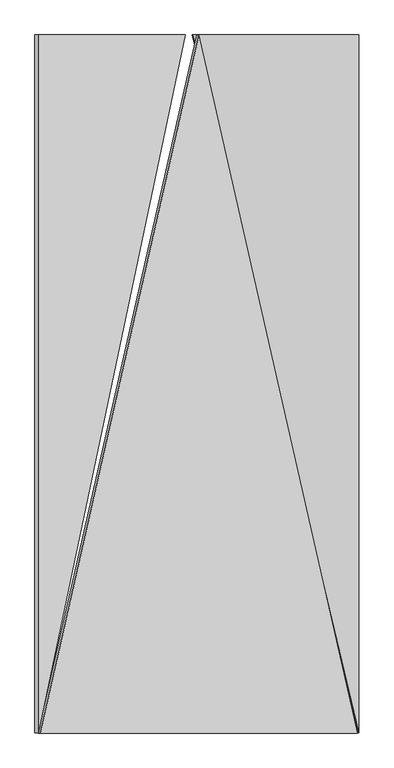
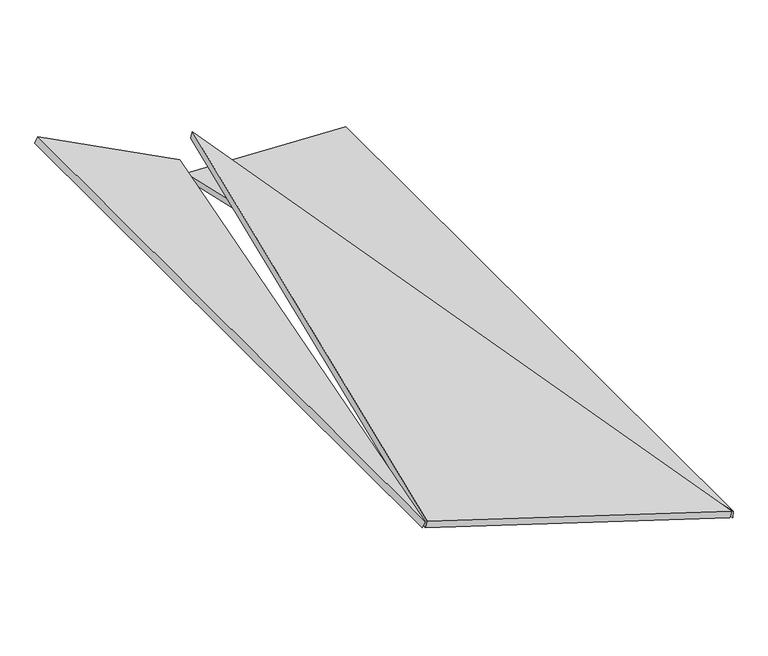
"""IFC4 building model written with IfcOpenShell, lengths in millimetres: proxy geometry, panel sufitowy 6 : panel sufitowy 6."""

from ifc_helpers import new_model, si_unit, frame, origin, place, context, project, spatial, polyline, outline, extrude, source, transform, mapped, element, save


def generic_models_e3e74076(model_context):
    return source(origin(), model_context, "Body", "SweptSolid", [
        extrude(outline(polyline([(-900.9098917, 0.0), (1006.1909889, 962.7191946), (1235.4098448, 0.0), (-900.9098917, 0.0)])), frame((520.065992, 1457.4151922, 1019.716037), z_axis=(0.300705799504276, 0.0, 0.953716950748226), x_axis=(-0.22090042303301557, -0.9728062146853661, 0.06964963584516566)), (0.0, 0.0, 1.0), 20.0),
        extrude(outline(polyline([(-127.5, 0.0), (-127.5, -2079.0), (-622.5000001, 0.0), (-127.5, 0.0)])), frame((1327.816475, 2335.0, 799.6341496), z_axis=(0.04361938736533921, 0.0, 0.9990482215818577), x_axis=(0.9990482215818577, 0.0, -0.04361938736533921)), (0.0, 0.0, 1.0), 20.0),
        extrude(outline(polyline([(-127.5000001, 0.0), (-622.5000001, 0.0), (-127.5000001, 2079.0), (-127.5000001, 0.0)])), frame((124.0898252, 2335.0, 1167.7814272), z_axis=(0.46174861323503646, 0.0, 0.8870108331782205), x_axis=(-0.8870108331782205, 0.0, 0.46174861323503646)), (0.0, 0.0, 1.0), 20.0),
    ])


if __name__ == "__main__":
    model = new_model("IFC4")
    model_context = context("Model", 3, world=origin())
    ifc_project = project(units=[si_unit("LENGTHUNIT", "METRE", prefix="MILLI")], contexts=[model_context])
    site = spatial("IfcSite", under=ifc_project)
    building = spatial("IfcBuilding", under=site)
    placement = place(None, origin())
    generic_models_shape = generic_models_e3e74076(model_context)
    element("IfcBuildingElementProxy", 1, Name="panel sufitowy 6 : panel sufitowy 6", ObjectType="panel sufitowy 6 : panel sufitowy 6", at=placement, inside=building, context=model_context, shape_type="MappedRepresentation", body=[
        mapped(generic_models_shape, transform((0.0, 0.0, 0.0), x_axis=(1.0, 0.0, 0.0), y_axis=(0.0, 1.0, 0.0), z_axis=(0.0, 0.0, 1.0))),
    ])
    save(model, "model.ifc")
